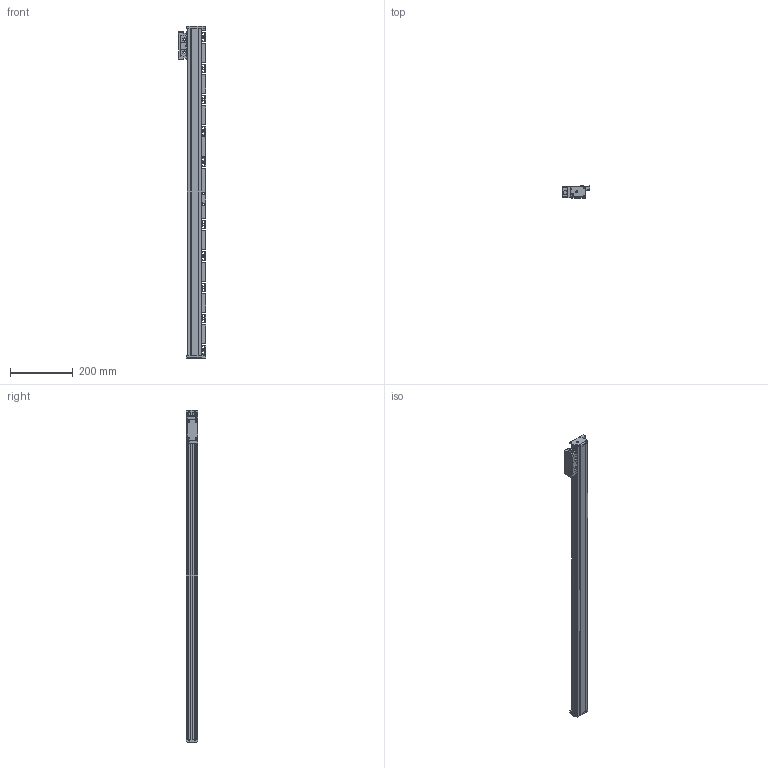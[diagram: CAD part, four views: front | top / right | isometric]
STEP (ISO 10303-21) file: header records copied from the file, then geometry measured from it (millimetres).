
FILE_DESCRIPTION(/* description */ (''),/* implementation_level */ '2;1');
FILE_NAME(/* name */ 'JC21A-940-1.stp',/* time_stamp */ '2023-12-21T16:38:36+08:00',/* author */ (''),/* organization */ (''),/* preprocessor_version */ 'ST-DEVELOPER v14',/* originating_system */ 'SIEMENS PLM Software NX 8.0',/* authorisation */ '');
FILE_SCHEMA (('CONFIG_CONTROL_DESIGN'));
Length unit declared in the file: millimetre
Products named in the file (1): JC21A-940-1
Bounding box: 87.5 x 37 x 1061 mm (x, y, z)
Volume: 1700283 mm3; surface area: 287348 mm2
Topology: 4 solids, 6 shells, 759 faces, 2212 edges, 1467 vertices
Faces by surface type: plane 472, cylinder 255, cone 22, bspline 8, extrusion 2
Full cylindrical faces by diameter (mm): 2.5 x12, 3.3 x6, 3.7 x4, 4.2 x4, 5 x2, 6 x6, 6.6 x2, 6.8 x12, 7 x2, 13.2 x2
Entity records: 25455 total; most frequent: CARTESIAN_POINT 5179, ORIENTED_EDGE 4220, DIRECTION 4174, EDGE_CURVE 2110, VERTEX_POINT 1439, VECTOR 1400, LINE 1398, AXIS2_PLACEMENT_3D 1387
